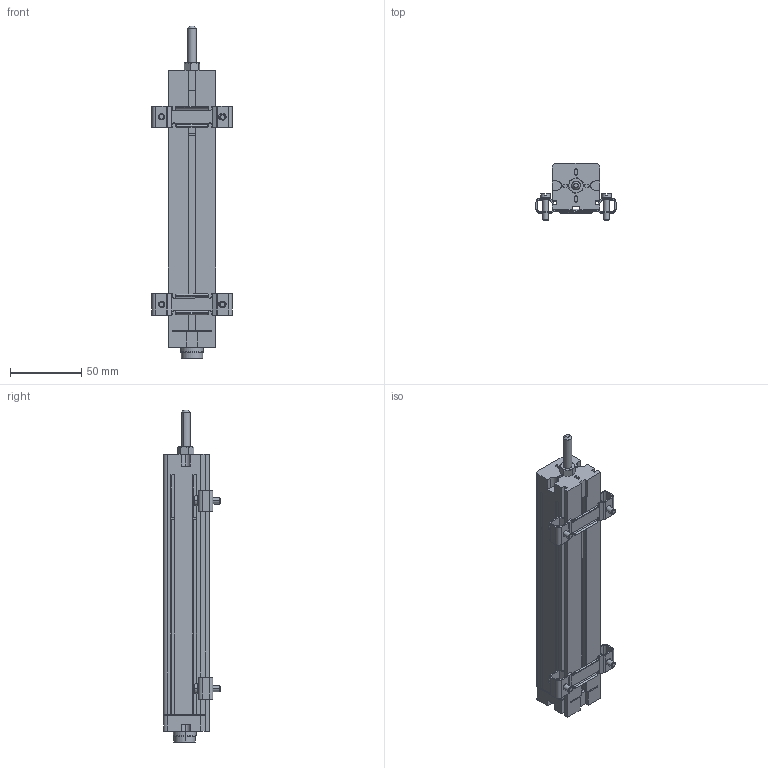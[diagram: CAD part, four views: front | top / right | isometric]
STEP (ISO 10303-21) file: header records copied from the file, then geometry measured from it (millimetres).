
FILE_DESCRIPTION(('STEP AP214'),'1');
FILE_NAME('burster_8719-5130_1vdr3wqg30fnj795t5aeu1wff.stp','2017-04-18T17:25:44',('TraceParts'),('TraceParts S.A.'),'Spatial InterOp 3D',' ',' ');
FILE_SCHEMA(('automotive_design'));
Length unit declared in the file: millimetre
Products named in the file (1): burster_8719-5130_1vdr3wqg30fnj795t5aeu1wff
Bounding box: 56 x 39.7 x 232.3 mm (x, y, z)
Volume: 196436.2 mm3; surface area: 42793.9 mm2
Topology: 1 solids, 3 shells, 675 faces, 1711 edges, 1026 vertices
Faces by surface type: plane 387, cylinder 196, cone 58, torus 12, bspline 12, sphere 10
Entity records: 25595 total; most frequent: CARTESIAN_POINT 3845, DIRECTION 3477, ORIENTED_EDGE 3402, EDGE_CURVE 1701, AXIS2_PLACEMENT_3D 1191, LINE 1095, VECTOR 1095, VERTEX_POINT 1026
